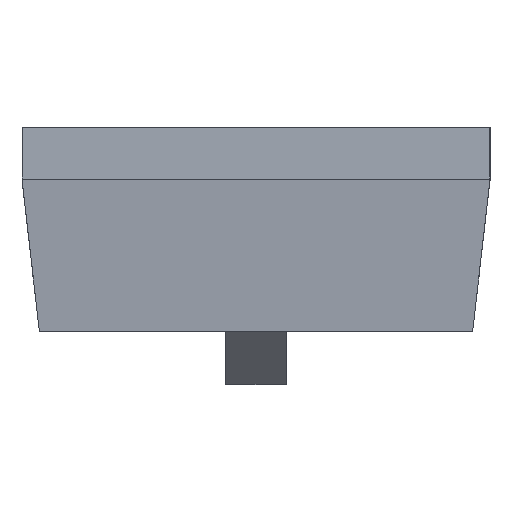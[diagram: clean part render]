
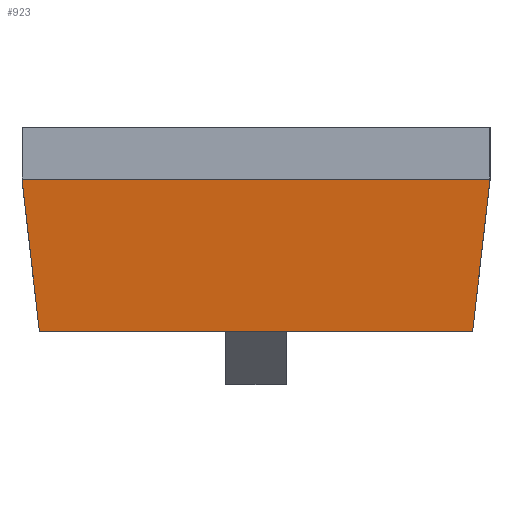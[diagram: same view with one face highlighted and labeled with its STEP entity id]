
A CAD part, top view. The second image highlights one B-rep face of the part: STEP entity #923.
In plain terms, the highlighted planar face has unit normal (0, -0.084, 0.997).
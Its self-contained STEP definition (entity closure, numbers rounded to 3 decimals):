
#380 = VERTEX_POINT('',#381);
#381 = CARTESIAN_POINT('',(-2.58,1.72,13.26));
#411 = VERTEX_POINT('',#412);
#412 = CARTESIAN_POINT('',(7.66,1.72,13.26));
#738 = VERTEX_POINT('',#739);
#739 = CARTESIAN_POINT('',(-2.2,-1.6,12.98));
#745 = EDGE_CURVE('',#738,#380,#746,.T.);
#746 = LINE('',#747,#748);
#747 = CARTESIAN_POINT('',(-2.58,1.72,13.26));
#748 = VECTOR('',#749,1.);
#749 = DIRECTION('',(-0.113,0.99,0.083)
  );
#783 = VERTEX_POINT('',#784);
#784 = CARTESIAN_POINT('',(7.28,-1.6,12.98));
#790 = EDGE_CURVE('',#738,#783,#791,.T.);
#791 = LINE('',#792,#793);
#792 = CARTESIAN_POINT('',(-2.58,-1.6,12.98));
#793 = VECTOR('',#794,1.);
#794 = DIRECTION('',(1.,0.,0.));
#826 = EDGE_CURVE('',#411,#783,#827,.T.);
#827 = LINE('',#828,#829);
#828 = CARTESIAN_POINT('',(7.66,1.72,13.26));
#829 = VECTOR('',#830,1.);
#830 = DIRECTION('',(-0.113,-0.99,
    -0.083));
#881 = EDGE_CURVE('',#380,#411,#882,.T.);
#882 = LINE('',#883,#884);
#883 = CARTESIAN_POINT('',(-2.58,1.72,13.26));
#884 = VECTOR('',#885,1.);
#885 = DIRECTION('',(1.,0.,0.));
#923 = ADVANCED_FACE('',(#924),#930,.F.);
#924 = FACE_BOUND('',#925,.T.);
#925 = EDGE_LOOP('',(#926,#927,#928,#929));
#926 = ORIENTED_EDGE('',*,*,#790,.T.);
#927 = ORIENTED_EDGE('',*,*,#826,.F.);
#928 = ORIENTED_EDGE('',*,*,#881,.F.);
#929 = ORIENTED_EDGE('',*,*,#745,.F.);
#930 = PLANE('',#931);
#931 = AXIS2_PLACEMENT_3D('',#932,#933,#934);
#932 = CARTESIAN_POINT('',(-2.58,1.72,13.26));
#933 = DIRECTION('',(0.,0.084,
    -0.996));
#934 = DIRECTION('',(0.,0.996,
    0.084));
